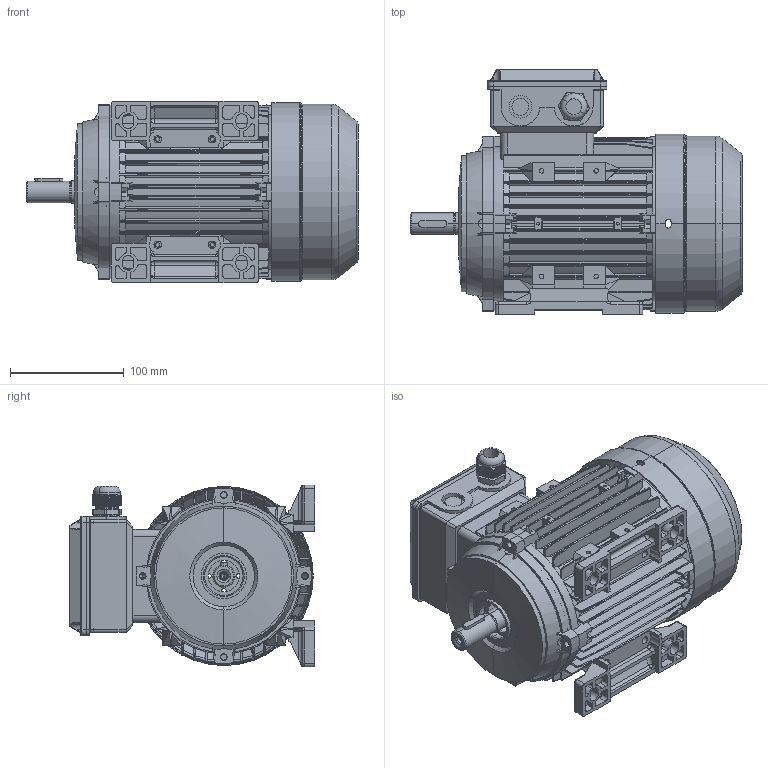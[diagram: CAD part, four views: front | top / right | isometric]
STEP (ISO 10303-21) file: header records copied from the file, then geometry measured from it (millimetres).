
FILE_DESCRIPTION (( 'STEP AP203' ), '1' );
FILE_NAME ('ME8024 assembly B3.STEP', '2013-01-11T11:16:45', ( '' ), ( '' ), 'SwSTEP 2.0', 'SolidWorks 2010', '' );
FILE_SCHEMA (( 'CONFIG_CONTROL_DESIGN' ));
Length unit declared in the file: millimetre
Products named in the file (9): ME80瑞欶_076; M80-Shaft drive end_S-2P; ME80菁褐; ME8024 assembly B3; ME80儂褲_樓馱; MS100諉盄碟釱; MS100諉盄碟裔; M20 cable gland; ME80傷裔B3
Assembly tree (9 placements, depth 2):
  ME8024 assembly B3
    ME80瑞欶_076
    ME80儂褲_樓馱
    MS100諉盄碟釱
    ME80菁褐  x2
    MS100諉盄碟裔
    M80-Shaft drive end_S-2P
    M20 cable gland
    ME80傷裔B3
Bounding box: 292.49 x 216 x 160 mm (x, y, z)
Volume: 739935.9 mm3; surface area: 524096.5 mm2
Topology: 9 solids, 9 shells, 2919 faces, 7921 edges, 5069 vertices
Faces by surface type: plane 1341, cylinder 952, bspline 384, cone 146, torus 80, sphere 16
Entity records: 130876 total; most frequent: CARTESIAN_POINT 63867, ORIENTED_EDGE 14884, DIRECTION 12101, EDGE_CURVE 7442, VERTEX_POINT 4785, AXIS2_PLACEMENT_3D 4073, LINE 3955, VECTOR 3955
